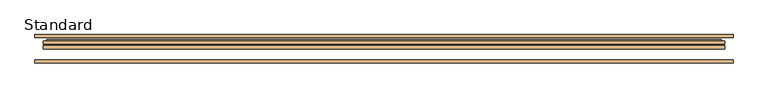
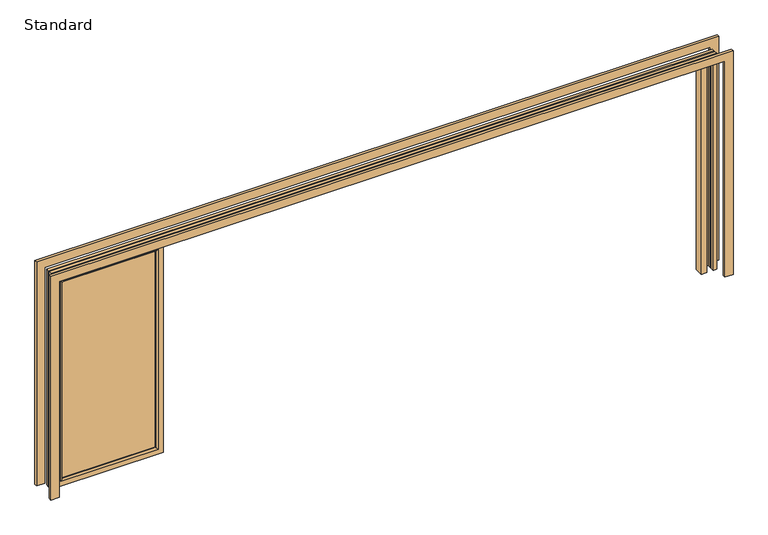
"""IFC4 building model written with IfcOpenShell, lengths in millimetres: door geometry, SMARTS_Visofold1000 : Standard."""

import ifcopenshell
import ifcopenshell.guid

model = None  # the IFC model being written
_history = None  # IfcOwnerHistory: only IFC2X3 demands one
_inside = {}  # id of a spatial element -> (the spatial element, [elements in it])
_under = {}  # id of a project, library or spatial element -> (it, [spatial elements below it])
_declared = {}  # id of a project -> (the project, [libraries it declares])
_typed = {}  # id of a type object -> (the type object, [elements of that type])
_made_of = {}  # id of a material, layer set ... -> (it, [elements and type objects made of it])


def new_model(schema):
    """Start an empty IFC model of exactly this schema.

    Asked for "IFC4X3", IfcOpenShell would pick the latest addendum, in which some entities
    have other attributes; the version numbers below select the first issue.
    IFC2X3 requires an IfcOwnerHistory on every rooted entity: one is made here for all.
    """
    global model, _history
    if schema == "IFC4X3":
        model = ifcopenshell.file(schema_version=(4, 3, 0, 0))
    else:
        model = ifcopenshell.file(schema=schema)
    _inside.clear()
    _under.clear()
    _declared.clear()
    _typed.clear()
    _made_of.clear()
    _history = None
    if model.schema == "IFC2X3":
        org = make("IfcOrganization", Name="unknown")
        user = make(
            "IfcPersonAndOrganization",
            ThePerson=make("IfcPerson", FamilyName="unknown"),
            TheOrganization=org,
        )
        app = make(
            "IfcApplication",
            ApplicationDeveloper=org,
            Version="unknown",
            ApplicationFullName="unknown",
            ApplicationIdentifier="unknown",
        )
        _history = make(
            "IfcOwnerHistory",
            OwningUser=user,
            OwningApplication=app,
            ChangeAction="ADDED",
            CreationDate=0,
        )
    return model


def make(cls, **values):
    """One entity of the class cls with the attributes given. An attribute that is None is left unset."""
    return model.create_entity(
        cls, **{name: value for name, value in values.items() if value is not None}
    )


def rooted(cls, **values):
    """An entity with a GlobalId (a new one), such as an element, a storey or a relation."""
    return make(cls, GlobalId=ifcopenshell.guid.new(), OwnerHistory=_history, **values)


def si_unit(unit_type, name, prefix=None):
    """IfcSIUnit, for example si_unit("LENGTHUNIT", "METRE", prefix="MILLI")."""
    return make("IfcSIUnit", UnitType=unit_type, Prefix=prefix, Name=name)


def assignment(units):
    """IfcUnitAssignment: the units of a project."""
    return None if units is None else make("IfcUnitAssignment", Units=units)


def point(xyz):
    """IfcCartesianPoint."""
    return None if xyz is None else make("IfcCartesianPoint", Coordinates=xyz)


def direction(xyz):
    """IfcDirection."""
    return None if xyz is None else make("IfcDirection", DirectionRatios=xyz)


def frame(location, z_axis=None, x_axis=None):
    """IfcAxis2Placement3D, a coordinate frame: its origin and axes. An axis left out is left unset."""
    return make(
        "IfcAxis2Placement3D",
        Location=point(location),
        Axis=direction(z_axis),
        RefDirection=direction(x_axis),
    )


def origin():
    """The frame at (0, 0, 0) with its axes left unset."""
    return frame((0.0, 0.0, 0.0))


def origin_with_axes():
    """The frame at (0, 0, 0) with the z axis (0, 0, 1) and the x axis (1, 0, 0) written out."""
    return frame((0.0, 0.0, 0.0), z_axis=(0.0, 0.0, 1.0), x_axis=(1.0, 0.0, 0.0))


def place(relative_to, where):
    """IfcLocalPlacement: puts the frame where relative to a parent placement (None: the world)."""
    return make(
        "IfcLocalPlacement", PlacementRelTo=relative_to, RelativePlacement=where
    )


def context(
    kind, dimensions, precision=None, world=None, true_north=None, identifier=None
):
    """IfcGeometricRepresentationContext, for example the 3D "Model" context."""
    return make(
        "IfcGeometricRepresentationContext",
        ContextIdentifier=identifier,
        ContextType=kind,
        CoordinateSpaceDimension=dimensions,
        Precision=precision,
        WorldCoordinateSystem=world,
        TrueNorth=true_north,
    )


def project(units=None, contexts=None):
    """IfcProject with its units and contexts."""
    return rooted(
        "IfcProject",
        Name="project",
        RepresentationContexts=contexts,
        UnitsInContext=assignment(units),
    )


def spatial(cls, under=None, at=None, **own):
    """A site, building, storey or space (cls), placed at a placement, below another one or the project."""
    s = rooted(cls, ObjectPlacement=at, **own)
    if under is not None:
        _under.setdefault(under.id(), (under, []))[1].append(s)
    return s


def polyline(points):
    """IfcPolyline through the points."""
    return make("IfcPolyline", Points=[point(p) for p in points])


def ellipse_curve(where, semi_axis1, semi_axis2):
    """IfcEllipse in the frame where."""
    return make(
        "IfcEllipse", Position=where, SemiAxis1=semi_axis1, SemiAxis2=semi_axis2
    )


def outline(outer, holes=None, kind="AREA"):
    """IfcArbitraryClosedProfileDef: a profile drawn as a closed curve; with holes, ...WithVoids."""
    if holes is None:
        return make("IfcArbitraryClosedProfileDef", ProfileType=kind, OuterCurve=outer)
    return make(
        "IfcArbitraryProfileDefWithVoids",
        ProfileType=kind,
        OuterCurve=outer,
        InnerCurves=holes,
    )


def extrude(swept, where, along, depth):
    """IfcExtrudedAreaSolid: the profile swept, set in the frame where, extruded along a direction by depth."""
    return make(
        "IfcExtrudedAreaSolid",
        SweptArea=swept,
        Position=where,
        ExtrudedDirection=direction(along),
        Depth=depth,
    )


def faces_of(points, faces, orient=None, outer=None):
    """IfcFace entities. A face is a list of loops; a loop is a list of indices into points, from 0.

    orient and outer hold one flag for each loop. By default every Orientation is true, the
    first loop of a face is its IfcFaceOuterBound and the others are IfcFaceBound.
    """
    made = []
    for i, loops in enumerate(faces):
        bounds = []
        for j, loop in enumerate(loops):
            is_outer = j == 0 if outer is None else outer[i][j]
            bounds.append(
                make(
                    "IfcFaceOuterBound" if is_outer else "IfcFaceBound",
                    Bound=make("IfcPolyLoop", Polygon=[points[k] for k in loop]),
                    Orientation=True if orient is None else orient[i][j],
                )
            )
        made.append(make("IfcFace", Bounds=bounds))
    return made


def faceted_brep(points, faces, orient=None, outer=None, voids=None):
    """IfcFacetedBrep: a solid bounded by flat faces; with voids (closed shells), ...WithVoids."""
    shared = [point(p) for p in points]
    hull = make("IfcClosedShell", CfsFaces=faces_of(shared, faces, orient, outer))
    if voids is None:
        return make("IfcFacetedBrep", Outer=hull)
    return make(
        "IfcFacetedBrepWithVoids",
        Outer=hull,
        Voids=[
            make(cls, CfsFaces=faces_of(shared, fs, o, b)) for cls, fs, o, b in voids
        ],
    )


def shape(context_of_items, identifier, shape_type, items):
    """IfcShapeRepresentation: the items that make up one representation, for example the "Body"."""
    return make(
        "IfcShapeRepresentation",
        ContextOfItems=context_of_items,
        RepresentationIdentifier=identifier,
        RepresentationType=shape_type,
        Items=items,
    )


def source(mapping_origin, context_of_items, identifier, shape_type, items):
    """IfcRepresentationMap: a shape defined once, which mapped items show again and again."""
    return make(
        "IfcRepresentationMap",
        MappingOrigin=mapping_origin,
        MappedRepresentation=shape(context_of_items, identifier, shape_type, items),
    )


def transform(
    local_origin,
    x_axis=None,
    y_axis=None,
    z_axis=None,
    scale=None,
    scale2=None,
    scale3=None,
    uniform=True,
):
    """IfcCartesianTransformationOperator3D, or its non-uniform kind. x_axis, y_axis, z_axis: its Axis1, 2, 3."""
    if uniform:
        return make(
            "IfcCartesianTransformationOperator3D",
            Axis1=direction(x_axis),
            Axis2=direction(y_axis),
            LocalOrigin=point(local_origin),
            Scale=scale,
            Axis3=direction(z_axis),
        )
    return make(
        "IfcCartesianTransformationOperator3DnonUniform",
        Axis1=direction(x_axis),
        Axis2=direction(y_axis),
        LocalOrigin=point(local_origin),
        Scale=scale,
        Axis3=direction(z_axis),
        Scale2=scale2,
        Scale3=scale3,
    )


def mapped(mapping_source, mapping_target):
    """IfcMappedItem: shows the shape of a source again, moved by a transform."""
    return make(
        "IfcMappedItem", MappingSource=mapping_source, MappingTarget=mapping_target
    )


def made_of(thing, what):
    """Note that an element or type object is made of a material, layer set ...; save() writes the relation."""
    if what is not None:
        _made_of.setdefault(what.id(), (what, []))[1].append(thing)
    return thing


def element(
    cls,
    number,
    at=None,
    inside=None,
    cuts=None,
    type_object=None,
    material=None,
    context=None,
    identifier="Body",
    shape_type=None,
    held_by="IfcProductDefinitionShape",
    body=None,
    shapes=None,
    **own,
):
    """One element of the class cls, such as IfcWall. Its Tag is "e" and its number.

    at: its placement. inside: the storey or other place that contains it. cuts: it is an
    opening in that element (IfcRelVoidsElement). A single representation is given by context,
    identifier, shape_type and body (its items); several are given by shapes. held_by: the class
    of the entity that holds the representations. save() writes the other relations.
    """
    e = rooted(cls, Tag="e%d" % number, ObjectPlacement=at, **own)
    if body is not None:
        shapes = [shape(context, identifier, shape_type, body)]
    if shapes is not None:
        e.Representation = make(held_by, Representations=shapes)
    if inside is not None:
        _inside.setdefault(inside.id(), (inside, []))[1].append(e)
    if cuts is not None:
        rooted(
            "IfcRelVoidsElement", RelatingBuildingElement=cuts, RelatedOpeningElement=e
        )
    if type_object is not None:
        _typed.setdefault(type_object.id(), (type_object, []))[1].append(e)
    return made_of(e, material)


def aggregate(whole, parts):
    """IfcRelAggregates: a whole, such as a stair, and the parts it consists of."""
    return rooted("IfcRelAggregates", RelatingObject=whole, RelatedObjects=parts)


def save(model, path):
    """Write the relations noted so far, then the file.

    IfcRelAggregates (storeys below a building ...), IfcRelContainedInSpatialStructure (elements
    in a storey), IfcRelDefinesByType, IfcRelAssociatesMaterial and IfcRelDeclares: one each for
    every whole, place, type object, material and project.
    """
    for whole, parts in _under.values():
        aggregate(whole, parts)
    for where, things in _inside.values():
        rooted(
            "IfcRelContainedInSpatialStructure",
            RelatedElements=things,
            RelatingStructure=where,
        )
    for kind, things in _typed.values():
        rooted("IfcRelDefinesByType", RelatedObjects=things, RelatingType=kind)
    for what, things in _made_of.values():
        rooted("IfcRelAssociatesMaterial", RelatedObjects=things, RelatingMaterial=what)
    for by, libraries in _declared.values():
        rooted("IfcRelDeclares", RelatingContext=by, RelatedDefinitions=libraries)
    model.write(path)


def plane_surface(at):
    """IfcPlane: the flat surface through the origin of the frame at, square to its z axis."""
    return make("IfcPlane", Position=at)


def cylinder_surface(at, radius):
    """IfcCylindricalSurface: all points at the distance radius from the z axis of the frame at."""
    return make("IfcCylindricalSurface", Position=at, Radius=radius)


def advanced_brep(points, edges, surfaces, faces):
    """IfcAdvancedBrep: a solid bounded by faces that lie on surfaces and meet in shared edges.

    An edge is (start, end): straight between two places in points (the first is 0);
    or (start, end, curve); or (start, end, curve, False) where it runs against its curve.
    A face is (place in surfaces, loops), or (place, loops, False) where it looks against
    its surface's normal. A loop lists edges by number (the first is 1), with a minus sign
    where the edge is run from its end to its start. The first loop is the outer one.
    """
    corners = [point(p) for p in points]
    vertices = [make("IfcVertexPoint", VertexGeometry=c) for c in corners]
    made = []
    for start, end, *more in edges:
        made.append(
            make(
                "IfcEdgeCurve",
                EdgeStart=vertices[start],
                EdgeEnd=vertices[end],
                EdgeGeometry=more[0] if more else make("IfcPolyline", Points=[corners[start], corners[end]]),
                SameSense=more[1] if len(more) > 1 else True,
            )
        )
    hull = []
    for where, loops, *sense in faces:
        bounds = []
        for j, loop in enumerate(loops):
            ring = [make("IfcOrientedEdge", EdgeElement=made[abs(k) - 1], Orientation=k > 0) for k in loop]
            bounds.append(
                make(
                    "IfcFaceOuterBound" if j == 0 else "IfcFaceBound",
                    Bound=make("IfcEdgeLoop", EdgeList=ring),
                    Orientation=True,
                )
            )
        hull.append(make("IfcAdvancedFace", Bounds=bounds, FaceSurface=surfaces[where], SameSense=sense[0] if sense else True))
    return make("IfcAdvancedBrep", Outer=make("IfcClosedShell", CfsFaces=hull))


def standard_0d9c882e(model_context):
    return source(origin(), model_context, "Body", "SolidModel", [
        advanced_brep(
        [(-2050.5, 13.3, 60.5), (-2050.5, 13.3, 1939.5), (-2050.5, 17.4, 1939.5), (-2050.5, 17.4, 60.5), (-1990.0, 17.4, 0.0), (-1990.0, 17.4, 2000.0), (-1990.0, 0.0, 2000.0), (-1990.0, 0.0, 0.0), (-2899.5, 13.3, 1939.5), (-2899.5, 17.4, 1939.5), (-2960.0, 17.4, 2000.0), (-2960.0, 0.0, 2000.0), (-2899.5, 13.3, 60.5), (-2899.5, 17.4, 60.5), (-2960.0, 17.4, 0.0), (-2960.0, 0.0, 0.0), (-2037.2, 0.0, 1952.8), (-2037.2, 0.0, 47.2), (-2912.8, 0.0, 47.2), (-2912.8, 0.0, 1952.8), (-2007.8691481, 34.8, 17.8691481), (-2007.8691481, 34.8, 1982.1308519), (-2007.8691481, 17.4, 1982.1308519), (-2007.8691481, 17.4, 17.8691481), (-2942.1308519, 34.8, 1982.1308519), (-2942.1308519, 17.4, 1982.1308519), (-2942.1308519, 34.8, 17.8691481), (-2942.1308519, 17.4, 17.8691481), (-2035.0, 17.4, 45.0), (-2035.0, 17.4, 1955.0), (-2035.0, 34.8, 1955.0), (-2035.0, 34.8, 45.0), (-2915.0, 17.4, 1955.0), (-2915.0, 34.8, 1955.0), (-2915.0, 17.4, 45.0), (-2915.0, 34.8, 45.0)],
        [
            (0, 1),
            (1, 2),
            (2, 3),
            (3, 0),
            (4, 5),
            (5, 6),
            (6, 7),
            (7, 4),
            (1, 8),
            (8, 9),
            (9, 2),
            (5, 10),
            (10, 11),
            (11, 6),
            (8, 12),
            (12, 13),
            (13, 9),
            (10, 14),
            (14, 15),
            (15, 11),
            (12, 0),
            (3, 13),
            (15, 7),
            (16, 17),
            (17, 18),
            (18, 19),
            (19, 16),
            (14, 4),
            (16, 1, ellipse_curve(frame((-2037.2, 13.3, 1952.8), z_axis=(0.7071067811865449, 0.0, -0.70710678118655), x_axis=(-0.7071067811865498, 0.0, -0.7071067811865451)), 18.8090404, 13.3)),
            (0, 17, ellipse_curve(frame((-2037.2, 13.3, 47.2), z_axis=(0.70710678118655, 0.0, 0.7071067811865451), x_axis=(0.7071067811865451, 0.0, -0.7071067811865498)), 18.8090404, 13.3)),
            (19, 8, ellipse_curve(frame((-2912.8, 13.3, 1952.8), z_axis=(0.7071067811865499, 0.0, 0.707106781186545), x_axis=(0.7071067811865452, 0.0, -0.7071067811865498)), 18.8090404, 13.3)),
            (18, 12, ellipse_curve(frame((-2912.8, 13.3, 47.2), z_axis=(-0.7071067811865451, 0.0, 0.7071067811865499), x_axis=(0.7071067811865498, 0.0, 0.7071067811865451)), 18.8090404, 13.3)),
            (20, 21),
            (21, 22),
            (22, 23),
            (23, 20),
            (21, 24),
            (24, 25),
            (25, 22),
            (24, 26),
            (26, 27),
            (27, 25),
            (27, 23),
            (26, 20),
            (28, 29),
            (29, 30),
            (30, 31),
            (31, 28),
            (29, 32),
            (32, 33),
            (33, 30),
            (32, 34),
            (34, 35),
            (35, 33),
            (34, 28),
            (31, 35),
        ],
        [
            plane_surface(frame((-2050.5, 17.4, 60.5), z_axis=(-1.0, 0.0, 0.0), x_axis=(0.0, 0.0, 1.0))),
            plane_surface(frame((-1990.0, 0.0, 0.0), z_axis=(1.0, 0.0, 0.0), x_axis=(0.0, 0.0, 1.0))),
            plane_surface(frame((-2050.5, 17.4, 1939.5), z_axis=(0.0, 0.0, -1.0), x_axis=(-1.0, 0.0, 0.0))),
            plane_surface(frame((-1990.0, 0.0, 2000.0), z_axis=(0.0, 0.0, 1.0), x_axis=(-1.0, 0.0, 0.0))),
            plane_surface(frame((-2899.5, 17.4, 1939.5), z_axis=(1.0, 0.0, 0.0), x_axis=(0.0, 0.0, -1.0))),
            plane_surface(frame((-2960.0, 0.0, 2000.0), z_axis=(-1.0, 0.0, 0.0), x_axis=(0.0, 0.0, -1.0))),
            plane_surface(frame((-2899.5, 17.4, 60.5), z_axis=(0.0, 0.0, 1.0), x_axis=(1.0, 0.0, 0.0))),
            plane_surface(frame((-2912.8, 0.0, 47.2), z_axis=(0.0, -1.0, 0.0), x_axis=(1.0, 0.0, 0.0))),
            plane_surface(frame((-2960.0, 0.0, 0.0), z_axis=(0.0, 0.0, -1.0), x_axis=(1.0, 0.0, 0.0))),
            cylinder_surface(frame((-2037.2, 13.3, 0.0), z_axis=(0.0, 0.0, -1.0), x_axis=(0.0, 1.0, 0.0)), 13.3),
            cylinder_surface(frame((-1990.0, 13.3, 1952.8), z_axis=(1.0, 0.0, 0.0), x_axis=(0.0, 1.0, 0.0)), 13.3),
            cylinder_surface(frame((-2912.8, 13.3, 2000.0), z_axis=(0.0, 0.0, 1.0), x_axis=(0.0, 1.0, 0.0)), 13.3),
            cylinder_surface(frame((-2960.0, 13.3, 47.2), z_axis=(-1.0, 0.0, 0.0), x_axis=(0.0, 1.0, 0.0)), 13.3),
            plane_surface(frame((-2007.8691481, 17.4, 17.8691481), z_axis=(1.0, 0.0, 0.0), x_axis=(0.0, 0.0, 1.0))),
            plane_surface(frame((-2007.8691481, 17.4, 1982.1308519), z_axis=(0.0, 0.0, 1.0), x_axis=(-1.0, 0.0, 0.0))),
            plane_surface(frame((-2942.1308519, 17.4, 1982.1308519), z_axis=(-1.0, 0.0, 0.0), x_axis=(0.0, 0.0, -1.0))),
            plane_surface(frame((-2960.0, 17.4, 0.0), z_axis=(0.0, 1.0, 0.0), x_axis=(1.0, 0.0, 0.0))),
            plane_surface(frame((-2942.1308519, 17.4, 17.8691481), z_axis=(0.0, 0.0, -1.0), x_axis=(1.0, 0.0, 0.0))),
            plane_surface(frame((-2035.0, 34.8, 45.0), z_axis=(-1.0, 0.0, 0.0), x_axis=(0.0, 0.0, 1.0))),
            plane_surface(frame((-2035.0, 34.8, 1955.0), z_axis=(0.0, 0.0, -1.0), x_axis=(-1.0, 0.0, 0.0))),
            plane_surface(frame((-2915.0, 34.8, 1955.0), z_axis=(1.0, 0.0, 0.0), x_axis=(0.0, 0.0, -1.0))),
            plane_surface(frame((-2915.0, 34.8, 45.0), z_axis=(0.0, 0.0, 1.0), x_axis=(1.0, 0.0, 0.0))),
            plane_surface(frame((-2915.0, 17.4, 45.0), z_axis=(0.0, 1.0, 0.0), x_axis=(1.0, 0.0, 0.0))),
            plane_surface(frame((-2942.1308519, 34.8, 17.8691481), z_axis=(0.0, 1.0, 0.0), x_axis=(1.0, 0.0, 0.0))),
        ],
        [
            (0, [[1, 2, 3, 4]]),
            (1, [[5, 6, 7, 8]]),
            (2, [[9, 10, 11, -2]]),
            (3, [[12, 13, 14, -6]]),
            (4, [[15, 16, 17, -10]]),
            (5, [[18, 19, 20, -13]]),
            (6, [[21, -4, 22, -16]]),
            (7, [[-7, -14, -20, 23], [24, 25, 26, 27]]),
            (8, [[28, -8, -23, -19]]),
            (9, [[-24, 29, -1, 30]]),
            (10, [[-27, 31, -9, -29]]),
            (11, [[-26, 32, -15, -31]]),
            (12, [[-25, -30, -21, -32]]),
            (13, [[33, 34, 35, 36]]),
            (14, [[37, 38, 39, -34]]),
            (15, [[40, 41, 42, -38]]),
            (16, [[-5, -28, -18, -12], [-35, -39, -42, 43]]),
            (17, [[44, -36, -43, -41]]),
            (18, [[45, 46, 47, 48]]),
            (19, [[49, 50, 51, -46]]),
            (20, [[52, 53, 54, -50]]),
            (21, [[55, -48, 56, -53]]),
            (22, [[-45, -55, -52, -49], [-3, -11, -17, -22]]),
            (23, [[-33, -44, -40, -37], [-47, -51, -54, -56]]),
        ],
    ),
        extrude(outline(polyline([(-2050.5, 50.1484783), (-2050.5, 21.4), (-2899.5, 21.4), (-2899.5, 50.1484783), (-2050.5, 50.1484783)])), frame((0.0, 0.0, 60.5), z_axis=(0.0, 0.0, 1.0), x_axis=(1.0, 0.0, 0.0)), (0.0, 0.0, 1.0), 1879.0),
        extrude(outline(polyline([(2910.0, 0.0), (2860.0, 0.0), (2860.0, 75.1750992), (2910.0, 75.1750992), (2910.0, 0.0)])), origin_with_axes(), (0.0, 0.0, 1.0), 2000.0),
        extrude(outline(polyline([(2058.6516063, -3000.0), (2058.6516063, 3000.0), (0.0, 3000.0), (0.0, 3075.0), (2133.6516063, 3075.0), (2133.6516063, -3075.0), (0.0, -3075.0), (0.0, -3000.0), (2058.6516063, -3000.0)])), frame((0.0, 100.0, 0.0), z_axis=(0.0, 1.0, 0.0), x_axis=(0.0, 0.0, 1.0)), (0.0, 0.0, 1.0), 25.0),
        extrude(outline(polyline([(2133.6516063, -3075.0), (0.0, -3075.0), (0.0, -3000.0), (2058.6516063, -3000.0), (2058.6516063, 3000.0), (0.0, 3000.0), (0.0, 3075.0), (2133.6516063, 3075.0), (2133.6516063, -3075.0)])), frame((0.0, -125.0, 0.0), z_axis=(0.0, 1.0, 0.0), x_axis=(0.0, 0.0, 1.0)), (0.0, 0.0, 1.0), 25.0),
        extrude(outline(polyline([(0.0, 2968.8), (0.0, 3000.0), (2058.6516063, 3000.0), (2058.6516063, -3000.0), (0.0, -3000.0), (0.0, -2968.8), (2027.4516063, -2968.8), (2027.4516063, 2968.8), (0.0, 2968.8)])), frame((0.0, 0.0, 0.0), z_axis=(0.0, 1.0, 0.0), x_axis=(0.0, 0.0, 1.0)), (0.0, 0.0, 1.0), 29.65),
        faceted_brep([(3000.0, 44.85, 0.0), (2968.8, 44.85, 0.0), (2968.8, 77.4, 0.0), (2948.3, 77.4, 0.0), (2948.3, 81.9, 0.0), (2970.6, 81.9, 0.0), (2970.6, 70.0, 0.0), (3000.0, 70.0, 0.0), (3000.0, 44.85, 2058.6516063), (-3000.0, 44.85, 2058.6516063), (-3000.0, 44.85, 0.0), (-2968.8, 44.85, 0.0), (-2968.8, 44.85, 2027.4516063), (2968.8, 44.85, 2027.4516063), (2968.8, 77.4, 2027.4516063), (-2968.8, 77.4, 2027.4516063), (-2968.8, 77.4, 0.0), (-2948.3, 77.4, 0.0), (-2948.3, 77.4, 2006.9516063), (2948.3, 77.4, 2006.9516063), (2948.3, 81.9, 2006.9516063), (-2948.3, 81.9, 2006.9516063), (-2948.3, 81.9, 0.0), (-2970.6, 81.9, 0.0), (-2970.6, 81.9, 2029.2516063), (2970.6, 81.9, 2029.2516063), (2970.6, 70.0, 2029.2516063), (-2970.6, 70.0, 2029.2516063), (-2970.6, 70.0, 0.0), (-3000.0, 70.0, 0.0), (-3000.0, 70.0, 2058.6516063), (3000.0, 70.0, 2058.6516063)], [[[0, 1, 2, 3, 4, 5, 6, 7]], [[1, 0, 8, 9, 10, 11, 12, 13]], [[2, 1, 13, 14]], [[3, 2, 14, 15, 16, 17, 18, 19]], [[4, 3, 19, 20]], [[5, 4, 20, 21, 22, 23, 24, 25]], [[6, 5, 25, 26]], [[7, 6, 26, 27, 28, 29, 30, 31]], [[0, 7, 31, 8]], [[10, 29, 28, 23, 22, 17, 16, 11]], [[9, 30, 29, 10]], [[27, 24, 23, 28]], [[21, 18, 17, 22]], [[15, 12, 11, 16]], [[8, 31, 30, 9]], [[14, 13, 12, 15]], [[26, 25, 24, 27]], [[20, 19, 18, 21]]]),
    ])


if __name__ == "__main__":
    model = new_model("IFC4")
    model_context = context("Model", 3, world=origin())
    ifc_project = project(units=[si_unit("LENGTHUNIT", "METRE", prefix="MILLI")], contexts=[model_context])
    site = spatial("IfcSite", under=ifc_project)
    building = spatial("IfcBuilding", under=site)
    placement = place(None, origin())
    standard_shape = standard_0d9c882e(model_context)
    element("IfcDoor", 1, ObjectType="SMARTS_Visofold1000 : Standard", at=placement, inside=building, context=model_context, shape_type="MappedRepresentation", body=[
        mapped(standard_shape, transform((0.0, 0.0, 0.0), x_axis=(1.0, 0.0, 0.0), y_axis=(0.0, 1.0, 0.0), z_axis=(0.0, 0.0, 1.0))),
    ])
    save(model, "model.ifc")
